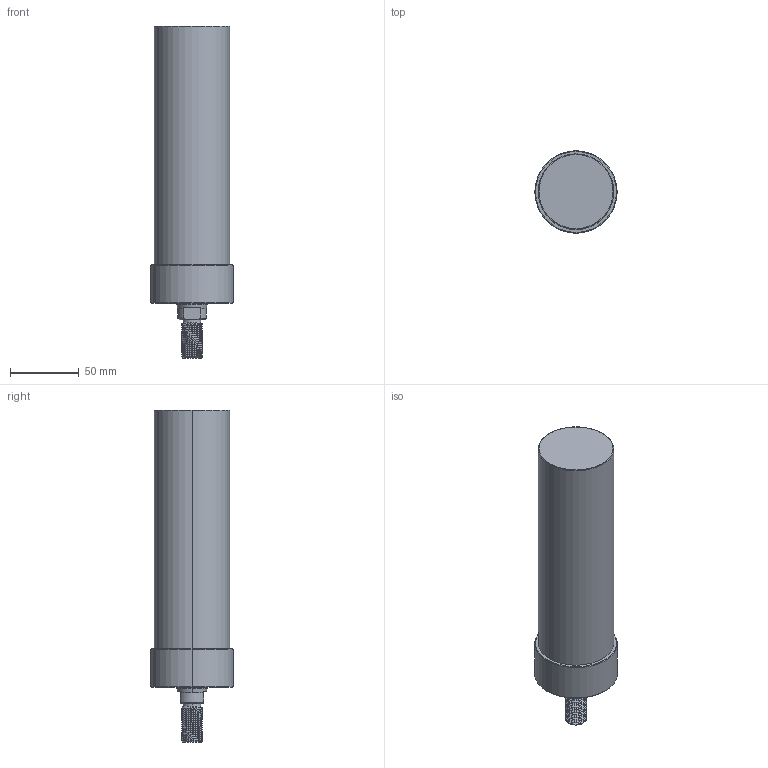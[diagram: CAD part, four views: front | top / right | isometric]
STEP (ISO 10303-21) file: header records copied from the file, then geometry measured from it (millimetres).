
FILE_DESCRIPTION (( 'STEP AP203' ), '1' );
FILE_NAME ('CLLU-055GT-145.STEP', '2020-01-16T02:04:22', ( '' ), ( '' ), 'SwSTEP 2.0', 'SolidWorks 2015', '' );
FILE_SCHEMA (( 'CONFIG_CONTROL_DESIGN' ));
Length unit declared in the file: millimetre
Products named in the file (1): CLLU-055GT-145
Bounding box: 60 x 60 x 242 mm (x, y, z)
Volume: 499868.6 mm3; surface area: 45018.4 mm2
Topology: 1 solids, 1 shells, 102 faces, 254 edges, 155 vertices
Faces by surface type: cylinder 56, cone 26, plane 12, torus 6, bspline 2
Entity records: 4893 total; most frequent: CARTESIAN_POINT 2602, ORIENTED_EDGE 492, DIRECTION 445, EDGE_CURVE 246, AXIS2_PLACEMENT_3D 178, VERTEX_POINT 155, EDGE_LOOP 111, FACE_OUTER_BOUND 102
